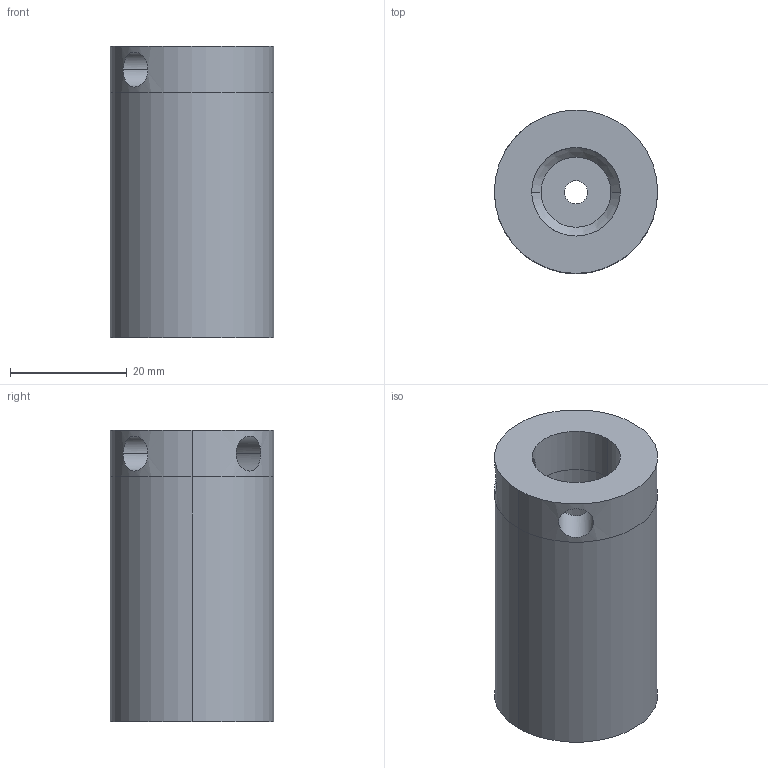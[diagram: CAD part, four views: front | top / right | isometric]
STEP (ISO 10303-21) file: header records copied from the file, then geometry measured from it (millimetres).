
FILE_DESCRIPTION(/* description */ (''),/* implementation_level */ '2;1');
FILE_NAME(/* name */ '3d_usn16-50_06265_r00.stp',/* time_stamp */ '2011-01-10T14:08:53+09:00',/* author */ ('MISUMI'),/* organization */ (''),/* preprocessor_version */ 'ST-DEVELOPER v11',/* originating_system */ 'UGS - NX 5.0',/* authorisation */ '');
FILE_SCHEMA (('CONFIG_CONTROL_DESIGN'));
Length unit declared in the file: millimetre
Products named in the file (1): 3d_usn16-50_06265_r00
Bounding box: 28 x 28 x 50 mm (x, y, z)
Volume: 21748.6 mm3; surface area: 7978.8 mm2
Topology: 1 solids, 1 shells, 20 faces, 44 edges, 28 vertices
Faces by surface type: cylinder 14, plane 4, cone 2
Entity records: 878 total; most frequent: CARTESIAN_POINT 333, DIRECTION 98, ORIENTED_EDGE 88, EDGE_CURVE 44, AXIS2_PLACEMENT_3D 41, EDGE_LOOP 28, VERTEX_POINT 28, ADVANCED_FACE 20
